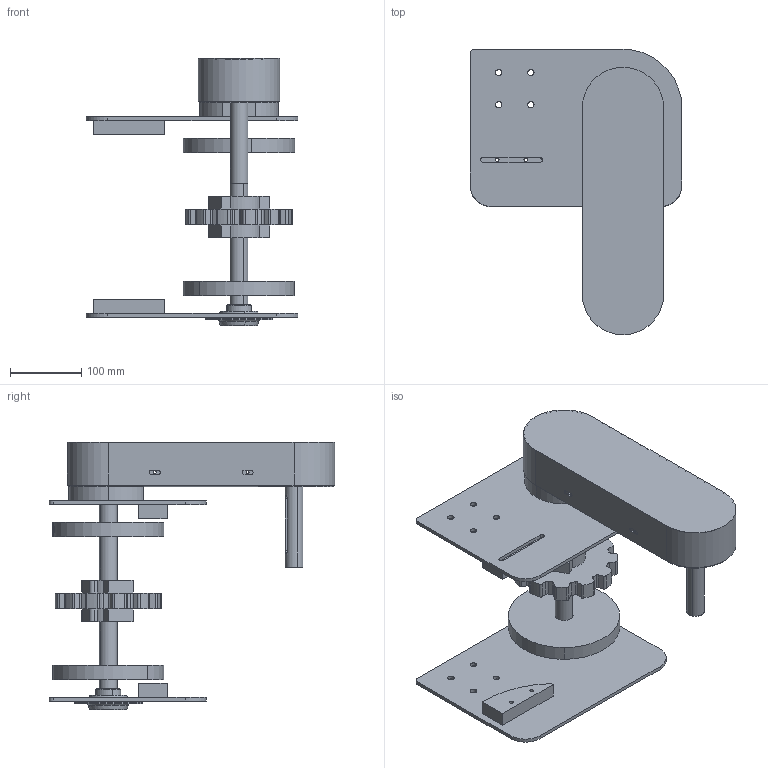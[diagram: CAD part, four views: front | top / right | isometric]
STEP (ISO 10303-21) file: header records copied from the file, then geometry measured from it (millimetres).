
FILE_DESCRIPTION (( 'STEP AP203' ), '1' );
FILE_NAME ('2000.1000.363.STEP', '2012-12-04T12:34:45', ( 'Alusic' ), ( 'Alusic' ), 'SwSTEP 2.0', 'SolidWorks 2011', '' );
FILE_SCHEMA (( 'CONFIG_CONTROL_DESIGN' ));
Length unit declared in the file: millimetre
Products named in the file (1): 2000.1000.363
Bounding box: 296.5 x 399.5 x 374 mm (x, y, z)
Volume: 2783217 mm3; surface area: 847103.4 mm2
Topology: 18 solids, 18 shells, 731 faces, 1988 edges, 1308 vertices
Faces by surface type: cylinder 395, plane 294, cone 16, torus 16, sphere 10
Entity records: 24070 total; most frequent: CARTESIAN_POINT 4610, DIRECTION 4237, ORIENTED_EDGE 3938, EDGE_CURVE 1969, AXIS2_PLACEMENT_3D 1572, VERTEX_POINT 1301, LINE 1093, VECTOR 1093
